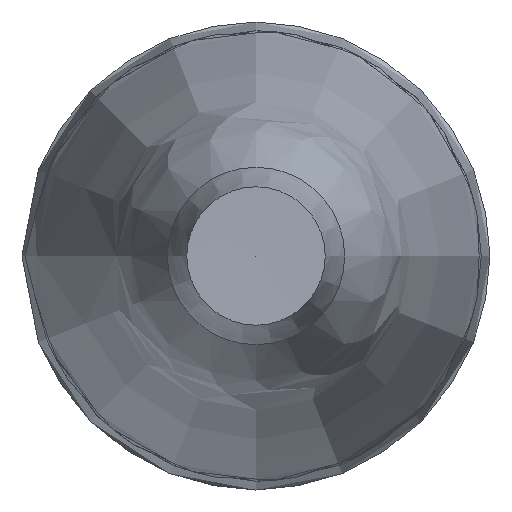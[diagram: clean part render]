
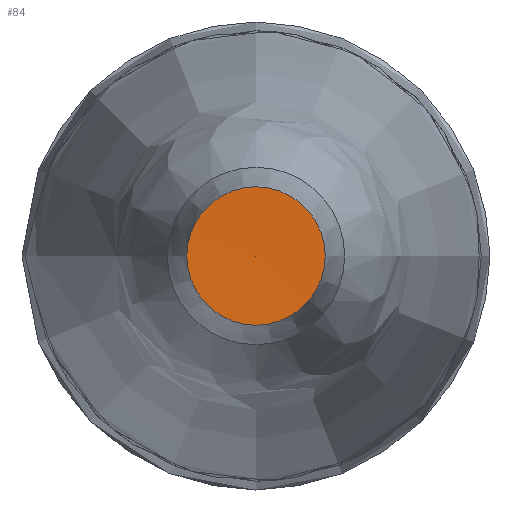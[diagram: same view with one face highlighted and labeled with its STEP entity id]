
A CAD part, left-side view. The second image highlights one B-rep face of the part: STEP entity #84.
In plain terms, the highlighted conical face has half-angle 89.231 degrees and reference radius 7.45 mm.
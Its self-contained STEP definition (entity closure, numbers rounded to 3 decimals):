
#68=CARTESIAN_POINT('',(30.1,0.0,0.0));
#69=DIRECTION('',(-1.0,0.0,0.0));
#70=DIRECTION('',(0.0,1.0,0.0));
#71=AXIS2_PLACEMENT_3D('',#68,#69,#70);
#72=CONICAL_SURFACE('',#71,7.45,89.231);
#73=CARTESIAN_POINT('',(30.0,14.9,0.0));
#74=VERTEX_POINT('',#73);
#75=CARTESIAN_POINT('',(30.0,0.0,0.0));
#76=DIRECTION('',(1.0,0.0,0.0));
#77=DIRECTION('',(0.0,1.0,0.0));
#78=AXIS2_PLACEMENT_3D('',#75,#76,#77);
#79=CIRCLE('',#78,14.9);
#80=EDGE_CURVE('',#74,#74,#79,.T.);
#81=ORIENTED_EDGE('',*,*,#80,.F.);
#82=EDGE_LOOP('',(#81));
#83=FACE_OUTER_BOUND('',#82,.T.);
#84=ADVANCED_FACE('',(#83),#72,.F.);
